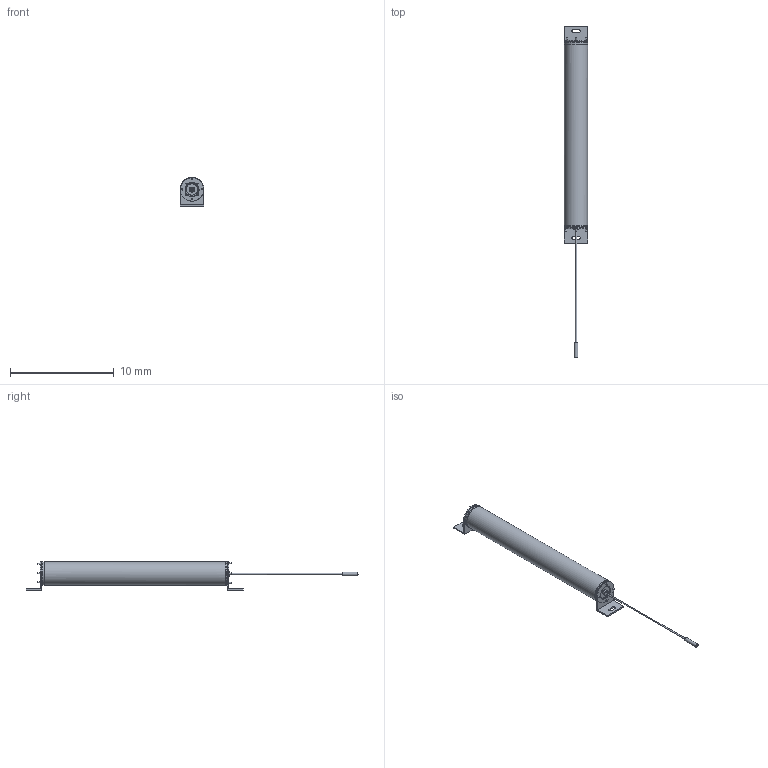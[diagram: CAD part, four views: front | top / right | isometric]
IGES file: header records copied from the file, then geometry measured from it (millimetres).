
Start section:  Autodesk DirectConnect version 7.0.27.0 ---- IGES version 5.3
Global section: file name: C:\ACADFILES\SS_PYLONS\CUSTOMER_FILES\SS-16-PYLON_3D_SMB_PT.iges; native system: Autodesk DirectConnect 7.0.27.0; preprocessor: 7.0.27.0; author: ENGINEERMAIN; organization: Unknown; date: 20150810.124327; units: millimetre
Bounding box: 2.26 x 32.01 x 2.75 mm (x, y, z)
Surface area: 572 mm2 (no closed solid volume)
Topology: 0 solids, 0 shells, 772 faces, 3944 edges, 3944 vertices
Faces by surface type: bspline 772
